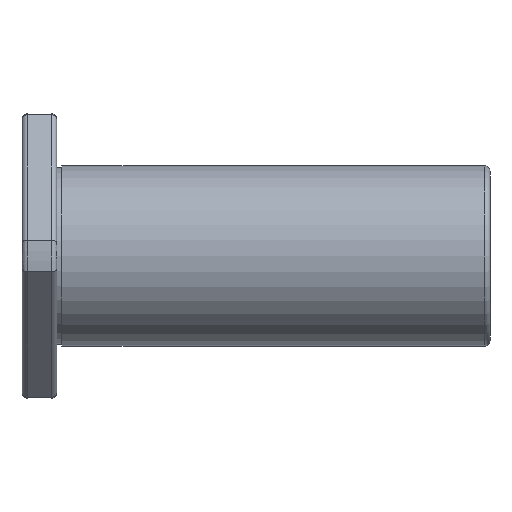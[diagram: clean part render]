
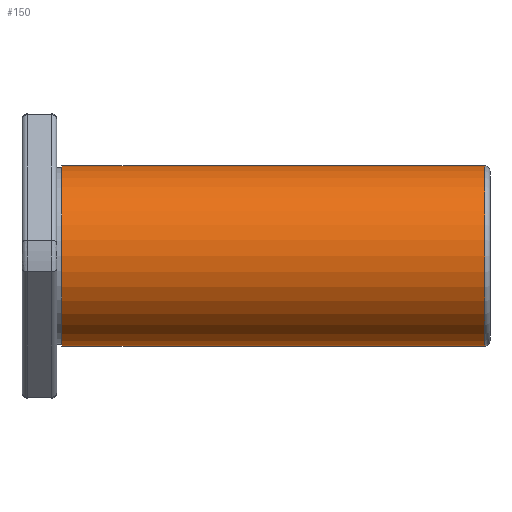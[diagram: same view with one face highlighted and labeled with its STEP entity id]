
A CAD part, front view. The second image highlights one B-rep face of the part: STEP entity #150.
In plain terms, the highlighted cylindrical face has radius 26 mm (diameter 52 mm), a full revolution.
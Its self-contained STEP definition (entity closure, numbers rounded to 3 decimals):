
#150 = ADVANCED_FACE( '', ( #328, #329 ), #330, .T. );
#328 = FACE_OUTER_BOUND( '', #511, .T. );
#329 = FACE_OUTER_BOUND( '', #512, .T. );
#330 = CYLINDRICAL_SURFACE( '', #513, 26. );
#511 = EDGE_LOOP( '', ( #849 ) );
#512 = EDGE_LOOP( '', ( #850 ) );
#513 = AXIS2_PLACEMENT_3D( '', #851, #852, #853 );
#849 = ORIENTED_EDGE( '', *, *, #990, .F. );
#850 = ORIENTED_EDGE( '', *, *, #972, .T. );
#851 = CARTESIAN_POINT( '', ( 39.9, 0., 0. ) );
#852 = DIRECTION( '', ( -1., 0., 0. ) );
#853 = DIRECTION( '', ( 0., 1., 0. ) );
#972 = EDGE_CURVE( '', #1151, #1151, #1152, .F. );
#990 = EDGE_CURVE( '', #1178, #1178, #1179, .F. );
#1151 = VERTEX_POINT( '', #1426 );
#1152 = CIRCLE( '', #1427, 26. );
#1178 = VERTEX_POINT( '', #1531 );
#1179 = CIRCLE( '', #1532, 26. );
#1426 = CARTESIAN_POINT( '', ( 133.5, 26., 0. ) );
#1427 = AXIS2_PLACEMENT_3D( '', #1742, #1743, #1744 );
#1531 = CARTESIAN_POINT( '', ( 11.5, 0., -26. ) );
#1532 = AXIS2_PLACEMENT_3D( '', #1758, #1759, #1760 );
#1742 = CARTESIAN_POINT( '', ( 133.5, 0., 0. ) );
#1743 = DIRECTION( '', ( 1., 0., 0. ) );
#1744 = DIRECTION( '', ( 0., 0., -1. ) );
#1758 = CARTESIAN_POINT( '', ( 11.5, 0., 0. ) );
#1759 = DIRECTION( '', ( 1., 0., 0. ) );
#1760 = DIRECTION( '', ( 0., 0., -1. ) );
